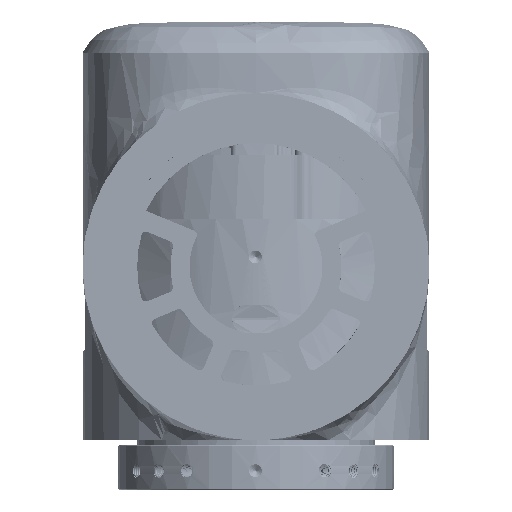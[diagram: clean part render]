
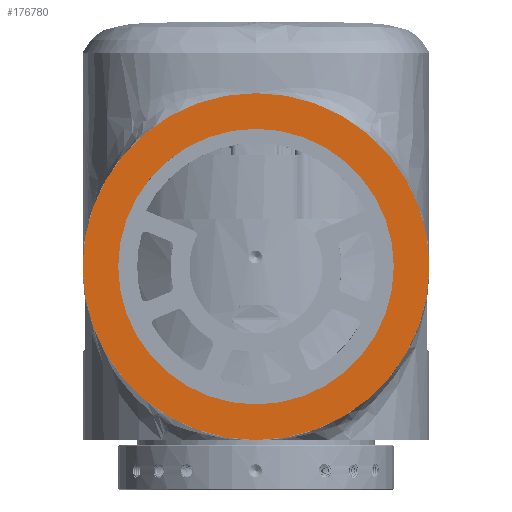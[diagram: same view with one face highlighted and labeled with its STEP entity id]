
A CAD part, front view. The second image highlights one B-rep face of the part: STEP entity #176780.
In plain terms, the highlighted planar face has unit normal (0, -1, 0).
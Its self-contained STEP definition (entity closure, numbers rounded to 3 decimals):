
#7424 = ORIENTED_EDGE ( 'NONE', *, *, #190998, .F. ) ;
#7955 = DIRECTION ( 'NONE',  ( 0., 0., -1. ) ) ;
#8968 = DIRECTION ( 'NONE',  ( 0., 1., 0. ) ) ;
#10805 = DIRECTION ( 'NONE',  ( 0., 0., -1. ) ) ;
#11421 = CIRCLE ( 'NONE', #53889, 36.5 ) ;
#23894 = CARTESIAN_POINT ( 'NONE',  ( 0., -48.5, -36.5 ) ) ;
#26158 = DIRECTION ( 'NONE',  ( 0., 1., 0. ) ) ;
#26322 = CARTESIAN_POINT ( 'NONE',  ( 0., -48.5, 0. ) ) ;
#30329 = CIRCLE ( 'NONE', #138052, 29. ) ;
#42191 = DIRECTION ( 'NONE',  ( 0., 0., 1. ) ) ;
#45233 = DIRECTION ( 'NONE',  ( 0., -1., 0. ) ) ;
#46008 = ORIENTED_EDGE ( 'NONE', *, *, #75391, .F. ) ;
#47866 = DIRECTION ( 'NONE',  ( 0., -1., 0. ) ) ;
#50460 = CIRCLE ( 'NONE', #109328, 29. ) ;
#53889 = AXIS2_PLACEMENT_3D ( 'NONE', #166257, #26158, #10805 ) ;
#53971 = FACE_OUTER_BOUND ( 'NONE', #142520, .T. ) ;
#66163 = AXIS2_PLACEMENT_3D ( 'NONE', #26322, #71317, #133711 ) ;
#71317 = DIRECTION ( 'NONE',  ( 0., 1., 0. ) ) ;
#72343 = EDGE_CURVE ( 'NONE', #93748, #176666, #30329, .T. ) ;
#72597 = CIRCLE ( 'NONE', #66163, 36.5 ) ;
#75391 = EDGE_CURVE ( 'NONE', #176666, #93748, #50460, .T. ) ;
#93748 = VERTEX_POINT ( 'NONE', #102494 ) ;
#101445 = CARTESIAN_POINT ( 'NONE',  ( 0., -48.5, 0. ) ) ;
#102494 = CARTESIAN_POINT ( 'NONE',  ( 0., -48.5, -29. ) ) ;
#108993 = EDGE_CURVE ( 'NONE', #170597, #140991, #72597, .T. ) ;
#109328 = AXIS2_PLACEMENT_3D ( 'NONE', #202341, #47866, #124578 ) ;
#111131 = AXIS2_PLACEMENT_3D ( 'NONE', #148065, #8968, #7955 ) ;
#124578 = DIRECTION ( 'NONE',  ( 0., 0., 1. ) ) ;
#133711 = DIRECTION ( 'NONE',  ( 0., 0., -1. ) ) ;
#137662 = EDGE_LOOP ( 'NONE', ( #46008, #202403 ) ) ;
#138052 = AXIS2_PLACEMENT_3D ( 'NONE', #101445, #45233, #42191 ) ;
#140991 = VERTEX_POINT ( 'NONE', #163586 ) ;
#142520 = EDGE_LOOP ( 'NONE', ( #172375, #7424 ) ) ;
#148065 = CARTESIAN_POINT ( 'NONE',  ( 0., -48.5, 0. ) ) ;
#149079 = PLANE ( 'NONE',  #111131 ) ;
#150083 = FACE_BOUND ( 'NONE', #137662, .T. ) ;
#163586 = CARTESIAN_POINT ( 'NONE',  ( 0., -48.5, 36.5 ) ) ;
#166257 = CARTESIAN_POINT ( 'NONE',  ( 0., -48.5, 0. ) ) ;
#170597 = VERTEX_POINT ( 'NONE', #23894 ) ;
#172375 = ORIENTED_EDGE ( 'NONE', *, *, #108993, .F. ) ;
#175712 = CARTESIAN_POINT ( 'NONE',  ( 0., -48.5, 29. ) ) ;
#176666 = VERTEX_POINT ( 'NONE', #175712 ) ;
#176780 = ADVANCED_FACE ( 'NONE', ( #150083, #53971 ), #149079, .F. ) ;
#190998 = EDGE_CURVE ( 'NONE', #140991, #170597, #11421, .T. ) ;
#202341 = CARTESIAN_POINT ( 'NONE',  ( 0., -48.5, 0. ) ) ;
#202403 = ORIENTED_EDGE ( 'NONE', *, *, #72343, .F. ) ;
